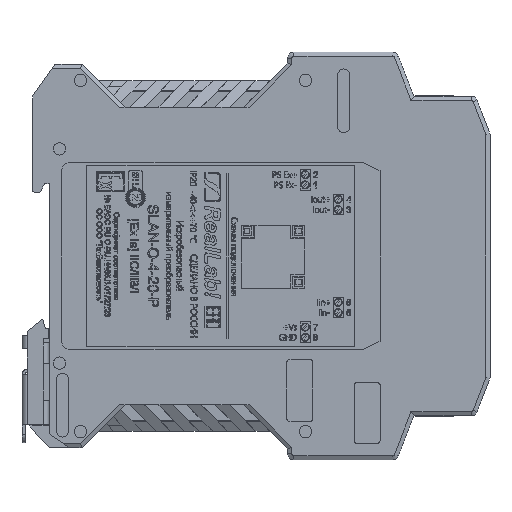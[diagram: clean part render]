
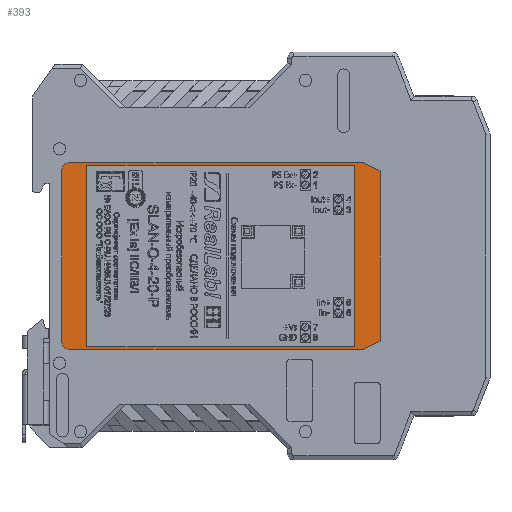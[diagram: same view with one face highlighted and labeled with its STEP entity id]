
A CAD part, front view. The second image highlights one B-rep face of the part: STEP entity #393.
In plain terms, the highlighted planar face has unit normal (0, -1, 0).
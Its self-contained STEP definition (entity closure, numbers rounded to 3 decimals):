
#393=ADVANCED_FACE('',(#71404,#71406),#71408,.T.);
#71404=FACE_BOUND('',#71405,.T.);
#71405=EDGE_LOOP('',(#126659,#126660,#126661,#126662,#126663,#126664,#126665,#126666));
#71406=FACE_BOUND('',#71407,.T.);
#71407=EDGE_LOOP('',(#126667,#126668,#126669,#126670));
#71408=PLANE('',#71409);
#71409=AXIS2_PLACEMENT_3D('',#71410,#71411,#71412);
#71410=CARTESIAN_POINT('',(103.85,0.2,0.));
#71411=DIRECTION('',(0.,-1.,0.));
#71412=DIRECTION('',(0.,0.,-1.));
#126659=ORIENTED_EDGE('',*,*,#185337,.T.);
#126660=ORIENTED_EDGE('',*,*,#185338,.T.);
#126661=ORIENTED_EDGE('',*,*,#185339,.T.);
#126662=ORIENTED_EDGE('',*,*,#185340,.T.);
#126663=ORIENTED_EDGE('',*,*,#185341,.T.);
#126664=ORIENTED_EDGE('',*,*,#185342,.F.);
#126665=ORIENTED_EDGE('',*,*,#185343,.T.);
#126666=ORIENTED_EDGE('',*,*,#185344,.F.);
#126667=ORIENTED_EDGE('',*,*,#185133,.T.);
#126668=ORIENTED_EDGE('',*,*,#185123,.T.);
#126669=ORIENTED_EDGE('',*,*,#185127,.T.);
#126670=ORIENTED_EDGE('',*,*,#185130,.T.);
#185123=EDGE_CURVE('',#207896,#207897,#207898,.T.);
#185127=EDGE_CURVE('',#207897,#207904,#207905,.T.);
#185130=EDGE_CURVE('',#207904,#207909,#207910,.T.);
#185133=EDGE_CURVE('',#207909,#207896,#207914,.T.);
#185337=EDGE_CURVE('',#208290,#208291,#208292,.T.);
#185338=EDGE_CURVE('',#208291,#208293,#208294,.T.);
#185339=EDGE_CURVE('',#208293,#208295,#208296,.T.);
#185340=EDGE_CURVE('',#208295,#208297,#208298,.T.);
#185341=EDGE_CURVE('',#208297,#208299,#208300,.T.);
#185342=EDGE_CURVE('',#208301,#208299,#208302,.T.);
#185343=EDGE_CURVE('',#208301,#208303,#208304,.T.);
#185344=EDGE_CURVE('',#208290,#208303,#208305,.T.);
#207896=VERTEX_POINT('',#245146);
#207897=VERTEX_POINT('',#245147);
#207898=LINE('',#245148,#245149);
#207904=VERTEX_POINT('',#245162);
#207905=LINE('',#245163,#245164);
#207909=VERTEX_POINT('',#245173);
#207910=LINE('',#245174,#245175);
#207914=LINE('',#245184,#245185);
#208290=VERTEX_POINT('',#245976);
#208291=VERTEX_POINT('',#245977);
#208292=LINE('',#245978,#245979);
#208293=VERTEX_POINT('',#245981);
#208294=LINE('',#245982,#245983);
#208295=VERTEX_POINT('',#245985);
#208296=LINE('',#245986,#245987);
#208297=VERTEX_POINT('',#245989);
#208298=LINE('',#245990,#245991);
#208299=VERTEX_POINT('',#245993);
#208300=LINE('',#245994,#245995);
#208301=VERTEX_POINT('',#245997);
#208302=CIRCLE('',#245998,2.);
#208303=VERTEX_POINT('',#246002);
#208304=LINE('',#246003,#246004);
#208305=CIRCLE('',#246006,2.);
#245146=CARTESIAN_POINT('',(74.15,0.2,-22.));
#245147=CARTESIAN_POINT('',(9.15,0.2,-22.));
#245148=CARTESIAN_POINT('',(74.15,0.2,-22.));
#245149=VECTOR('',#245150,1.);
#245150=DIRECTION('',(-1.,0.,0.));
#245162=CARTESIAN_POINT('',(9.15,0.2,22.));
#245163=CARTESIAN_POINT('',(9.15,0.2,-22.));
#245164=VECTOR('',#245165,1.);
#245165=DIRECTION('',(0.,0.,1.));
#245173=CARTESIAN_POINT('',(74.15,0.2,22.));
#245174=CARTESIAN_POINT('',(9.15,0.2,22.));
#245175=VECTOR('',#245176,1.);
#245176=DIRECTION('',(1.,0.,0.));
#245184=CARTESIAN_POINT('',(74.15,0.2,22.));
#245185=VECTOR('',#245186,1.);
#245186=DIRECTION('',(0.,0.,-1.));
#245976=CARTESIAN_POINT('',(5.,0.2,-22.65));
#245977=CARTESIAN_POINT('',(76.3,0.2,-22.65));
#245978=CARTESIAN_POINT('',(5.,0.2,-22.65));
#245979=VECTOR('',#245980,1.);
#245980=DIRECTION('',(1.,0.,0.));
#245981=CARTESIAN_POINT('',(80.3,0.2,-20.65));
#245982=CARTESIAN_POINT('',(76.3,0.2,-22.65));
#245983=VECTOR('',#245984,1.);
#245984=DIRECTION('',(0.894,0.,0.447));
#245985=CARTESIAN_POINT('',(80.3,0.2,20.65));
#245986=CARTESIAN_POINT('',(80.3,0.2,-20.65));
#245987=VECTOR('',#245988,1.);
#245988=DIRECTION('',(0.,0.,1.));
#245989=CARTESIAN_POINT('',(76.3,0.2,22.65));
#245990=CARTESIAN_POINT('',(80.3,0.2,20.65));
#245991=VECTOR('',#245992,1.);
#245992=DIRECTION('',(-0.894,0.,0.447));
#245993=CARTESIAN_POINT('',(5.,0.2,22.65));
#245994=CARTESIAN_POINT('',(76.3,0.2,22.65));
#245995=VECTOR('',#245996,1.);
#245996=DIRECTION('',(-1.,0.,0.));
#245997=CARTESIAN_POINT('',(3.,0.2,20.65));
#245998=AXIS2_PLACEMENT_3D('',#245999,#246000,#246001);
#245999=CARTESIAN_POINT('',(5.,0.2,20.65));
#246000=DIRECTION('',(0.,1.,0.));
#246001=DIRECTION('',(-1.,0.,0.));
#246002=CARTESIAN_POINT('',(3.,0.2,-20.65));
#246003=CARTESIAN_POINT('',(3.,0.2,20.65));
#246004=VECTOR('',#246005,1.);
#246005=DIRECTION('',(0.,0.,-1.));
#246006=AXIS2_PLACEMENT_3D('',#246007,#246008,#246009);
#246007=CARTESIAN_POINT('',(5.,0.2,-20.65));
#246008=DIRECTION('',(0.,1.,0.));
#246009=DIRECTION('',(0.,0.,-1.));
